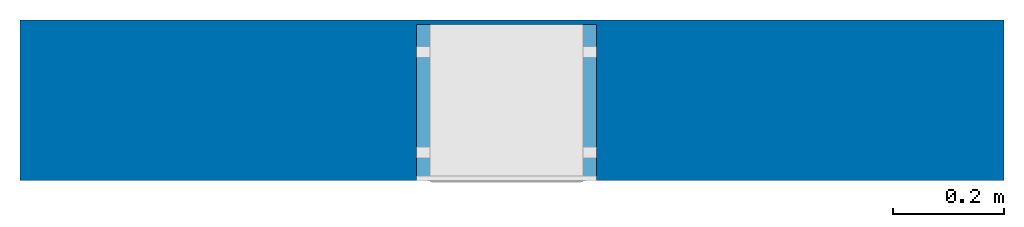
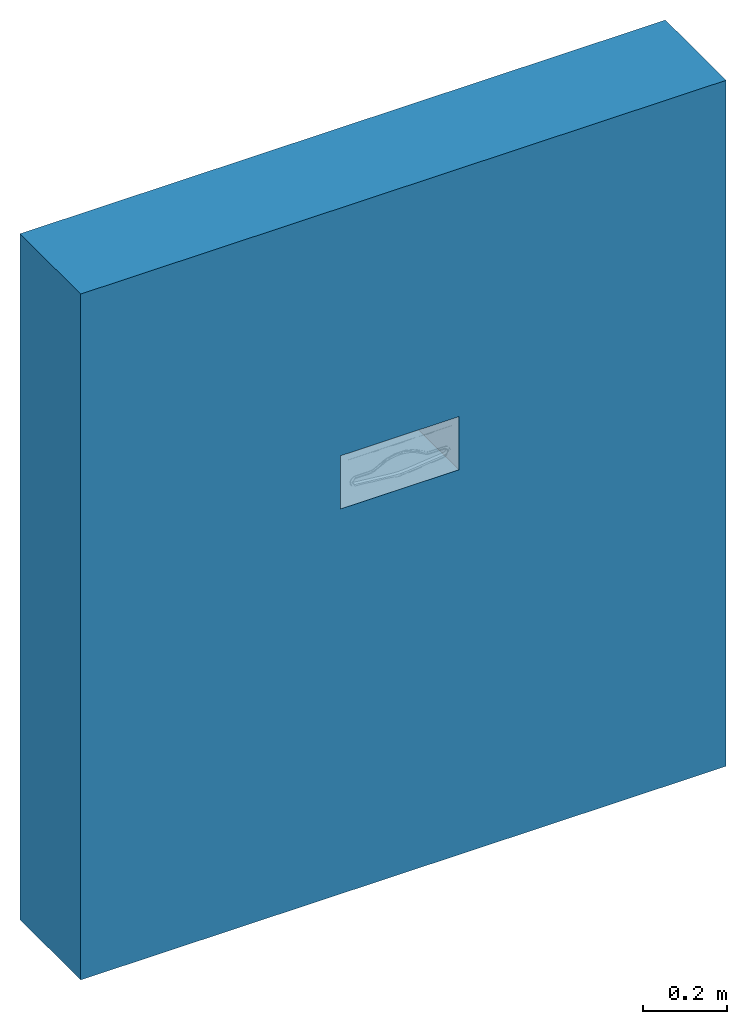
# One storey, incomplete: 1 wall, 1 opening.
"""IFC2X3 building model written with IfcOpenShell, lengths in millimetres."""

from ifc_helpers import new_model, entity, si_unit, converted_unit, derived_unit, direction, frame, frame_2d, origin, place, context, subcontext, project, spatial, rectangle, extrude, material, layer, layer_set, layer_usage, type_object, element, save


model = new_model("IFC2X3")

# Units and contexts
model_context = context("Model", 3, precision=0.01, world=origin(), true_north=direction((6.12303176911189e-17, 1.0)))
context_of_model = context(None, 3, precision=0.01, world=origin(), true_north=direction((6.12303176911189e-17, 1.0)))
body_context = subcontext(model_context, "Body", "Model", "MODEL_VIEW")
ifc_project = project(units=[si_unit("LENGTHUNIT", "METRE", prefix="MILLI"), si_unit("AREAUNIT", "SQUARE_METRE"), si_unit("VOLUMEUNIT", "CUBIC_METRE"), converted_unit("PLANEANGLEUNIT", "DEGREE", entity("IfcRatioMeasure", 0.0174532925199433), si_unit("PLANEANGLEUNIT", "RADIAN"), dimensions=[0, 0, 0, 0, 0, 0, 0]), si_unit("MASSUNIT", "GRAM", prefix="KILO"), si_unit("TIMEUNIT", "SECOND"), si_unit("FREQUENCYUNIT", "HERTZ"), si_unit("THERMODYNAMICTEMPERATUREUNIT", "DEGREE_CELSIUS"), derived_unit("THERMALTRANSMITTANCEUNIT", [(si_unit("MASSUNIT", "GRAM", prefix="KILO"), 1), (si_unit("THERMODYNAMICTEMPERATUREUNIT", "KELVIN"), -1), (si_unit("TIMEUNIT", "SECOND"), -3)]), derived_unit("VOLUMETRICFLOWRATEUNIT", [(si_unit("LENGTHUNIT", "METRE"), 3), (si_unit("TIMEUNIT", "SECOND"), -1)]), si_unit("ELECTRICCURRENTUNIT", "AMPERE"), si_unit("ELECTRICVOLTAGEUNIT", "VOLT"), si_unit("POWERUNIT", "WATT"), si_unit("FORCEUNIT", "NEWTON", prefix="KILO"), si_unit("ILLUMINANCEUNIT", "LUX"), si_unit("LUMINOUSFLUXUNIT", "LUMEN"), si_unit("LUMINOUSINTENSITYUNIT", "CANDELA"), si_unit("PRESSUREUNIT", "PASCAL")], contexts=[model_context, context_of_model])

# Site, building, storey
site_placement = place(None, origin())
site = spatial("IfcSite", under=ifc_project, at=site_placement, Name="Default", CompositionType="ELEMENT")
building_placement = place(site_placement, origin())
building = spatial("IfcBuilding", under=site, at=building_placement, CompositionType="ELEMENT")
storey_placement = place(building_placement, origin())
storey = spatial("IfcBuildingStorey", under=building, at=storey_placement, Name="Level 0", CompositionType="ELEMENT", Elevation=0.0)

# Wall, opening
ifc_material_1 = material(Name="Brick, Common")
ifc_layer_1 = layer(ifc_material_1, 102.5)
ifc_material_2 = material(Name="Fiberglass Batt")
ifc_layer_2 = layer(ifc_material_2, 75.0)
ifc_material_3 = material(Name="Concrete Masonry Units _Low Density")
ifc_layer_3 = layer(ifc_material_3, 100.0)
ifc_material_4 = material(Name="Plaster")
ifc_layer_4 = layer(ifc_material_4, 12.5)
ifc_layer_set = layer_set([ifc_layer_1, ifc_layer_2, ifc_layer_3, ifc_layer_4], Name="Basic Wall:Wall-Ext_102Bwk-75Ins-100LBlk-12P")
ifc_layer_usage = layer_usage(ifc_layer_set, "AXIS2", "NEGATIVE", 145.0)
wall_type = type_object("IfcWallType", Name="Basic Wall:Wall-Ext_102Bwk-75Ins-100LBlk-12P", PredefinedType="STANDARD", material=ifc_layer_set)
wall_placement = place(storey_placement, frame((-1684.05248831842, 2997.1974267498, 0.0)))
wall = element("IfcWallStandardCase", 1, at=wall_placement, inside=storey, type_object=wall_type, material=ifc_layer_usage, Name="Basic Wall:Wall-Ext_102Bwk-75Ins-100LBlk-12P", ObjectType="Basic Wall:Wall-Ext_102Bwk-75Ins-100LBlk-12P", context=body_context, shape_type="SweptSolid", body=[
    extrude(rectangle(XDim=1780.0, YDim=290.0, at=frame_2d((890.0, -1.4210854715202e-14), x_axis=(-1.0, 0.0))), origin(), (0.0, 0.0, 1.0), 2000.0),
])
opening_placement = place(wall_placement, frame((717.0, -145.0, 1122.5)))
element("IfcOpeningElement", 2, at=opening_placement, cuts=wall, Name="Basic Wall:Wall-Ext_102Bwk-75Ins-100LBlk-12P", ObjectType="Recess", context=body_context, shape_type="SweptSolid", body=[
    extrude(rectangle(XDim=155.000000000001, YDim=326.000000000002, at=frame_2d((-7.105427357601e-14, 0.0), x_axis=(0.0, 1.0))), frame((163.0, 0.0, 77.5000000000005), z_axis=(0.0, 1.0, 0.0), x_axis=(-1.0, 0.0, 0.0)), (0.0, 0.0, 1.0), 282.0),
])

save(model, "model.ifc")
